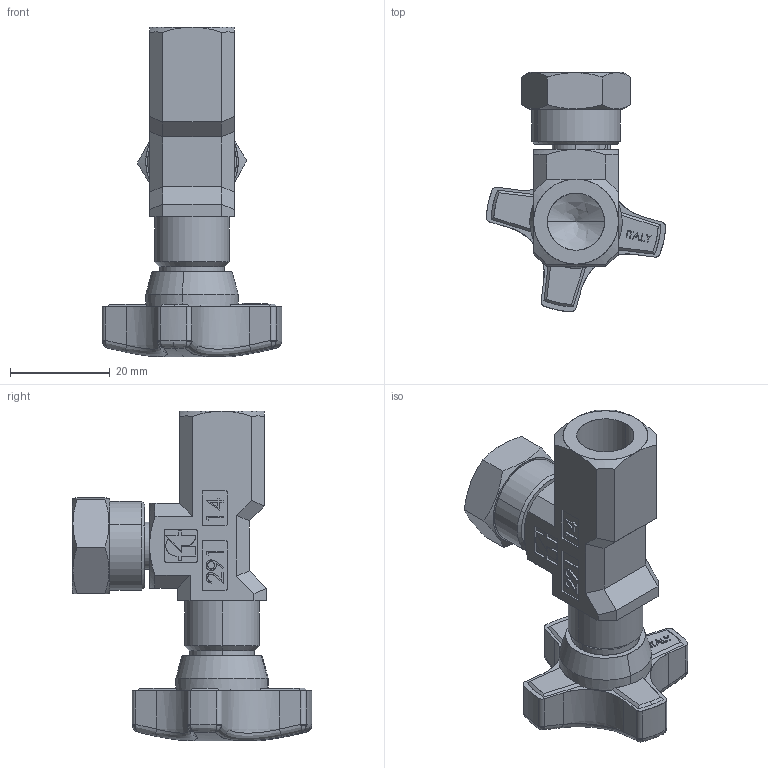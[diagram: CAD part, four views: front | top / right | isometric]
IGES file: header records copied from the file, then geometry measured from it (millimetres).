
Start section: SolidWorks IGES file using analytic representation for surfaces
Global section: file name: C:\Disegni3D\Tognella\Catalogo3D\FT291\FT291-14FF\FileIges\FT291-14FF.IGS; native system: SolidWorks 2006 by SolidWorks Corporation; preprocessor: SolidWorks 2006 by SolidWorks Corporation; author: Administrator; date: 061229.153226; units: millimetre
Bounding box: 35.94 x 47.97 x 66.08 mm (x, y, z)
Surface area: 9767.2 mm2 (no closed solid volume)
Topology: 0 solids, 0 shells, 483 faces, 4274 edges, 4264 vertices
Faces by surface type: bspline 356, revolution 127
